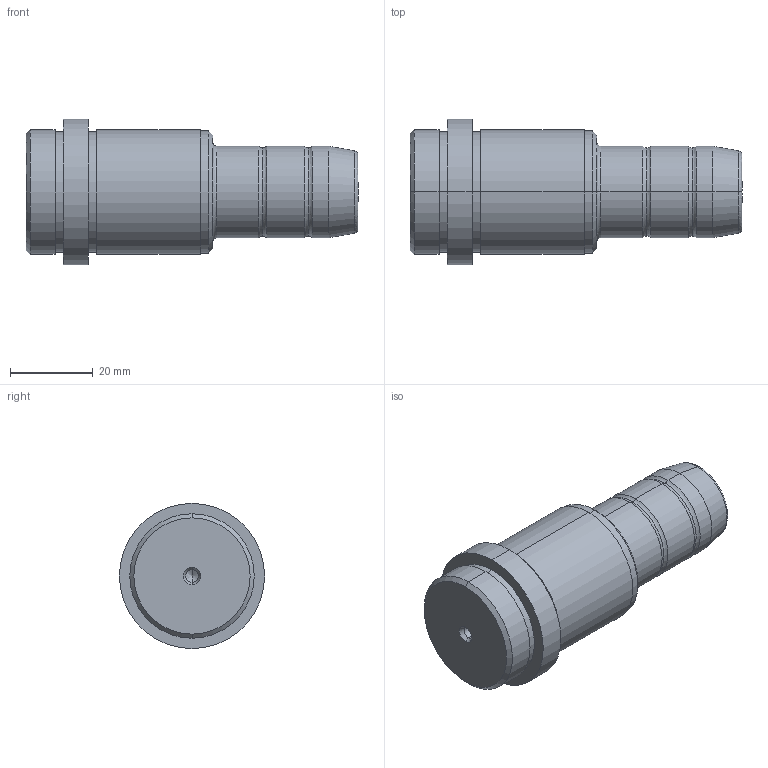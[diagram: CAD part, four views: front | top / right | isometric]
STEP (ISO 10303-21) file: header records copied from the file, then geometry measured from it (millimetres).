
FILE_DESCRIPTION( ( 'STEP AP203' ), '1' );
FILE_NAME( 'C:/Projects/D03 - 22x36x35.step', '2003-01-03T00:32:38', ( ' ' ), ( ' ' ), 'XStep 1.0', ' ', ' ' );
FILE_SCHEMA( ( 'CONFIG_CONTROL_DESIGN' ) );
Length unit declared in the file: metre
Products named in the file (1): 1
Bounding box: 80 x 35 x 35 mm (x, y, z)
Volume: 45879.9 mm3; surface area: 8675.4 mm2
Topology: 1 solids, 1 shells, 56 faces, 112 edges, 64 vertices
Faces by surface type: revolution 36, bspline 20
Entity records: 1691 total; most frequent: CARTESIAN_POINT 513, ORIENTED_EDGE 220, DIRECTION 218, EDGE_CURVE 110, AXIS2_PLACEMENT_3D 73, CIRCLE 72, EDGE_LOOP 64, VERTEX_POINT 64
